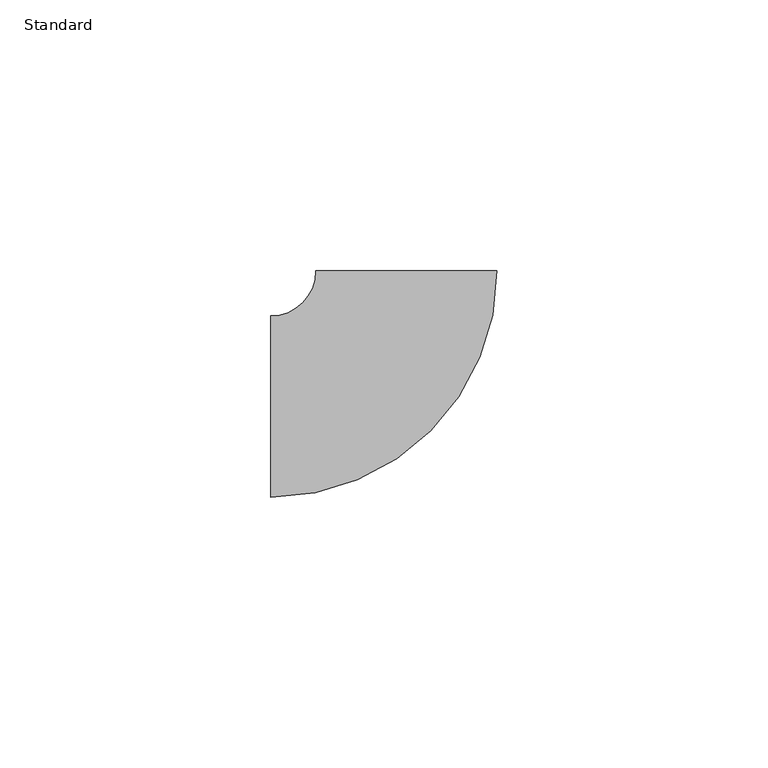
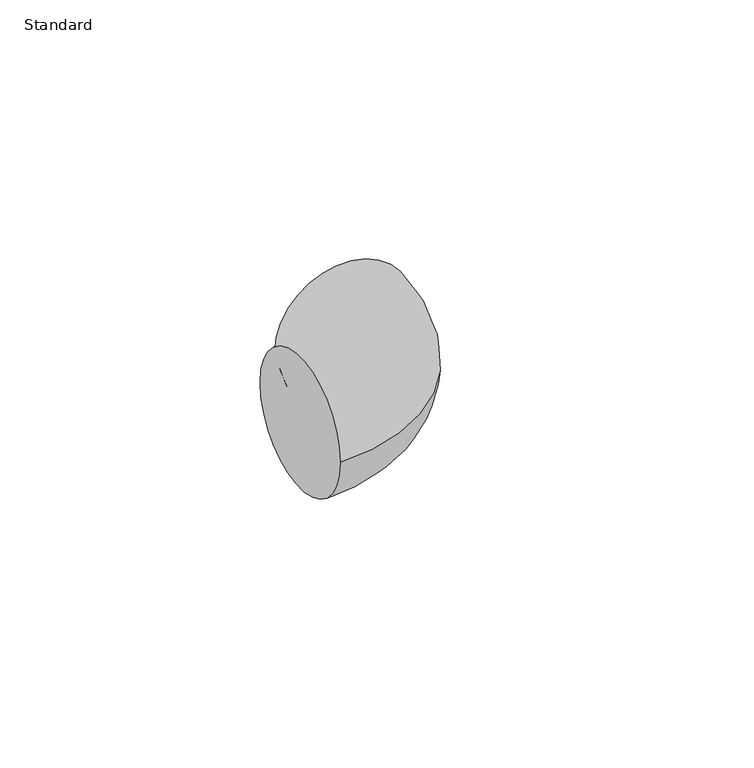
"""IFC4 building model written with IfcOpenShell, lengths in millimetres: pipe fitting geometry, Coude - Générique1 : Standard."""

from ifc_helpers import new_model, si_unit, point, frame, origin, place, context, project, spatial, circle_curve, ellipse_curve, trimmed, source, transform, mapped, element, save
from ifc_brep_helpers import plane_surface, revolved_surface, advanced_brep


def standard_6e5039bf(model_context):
    return source(origin(), model_context, "Body", "AdvancedBrep", [
        advanced_brep(
        [(-25.0, -16.7, 0.0), (-25.0, 16.7, 0.0), (16.7, 25.0, 0.0), (-16.7, 25.0, 0.0)],
        [
            (0, 1, circle_curve(frame((-25.0, 0.0, 0.0), z_axis=(-1.0, 0.0, 0.0), x_axis=(0.0, 1.0, 0.0)), 16.7)),
            (1, 0, circle_curve(frame((-25.0, 0.0, 0.0), z_axis=(-1.0, 0.0, 0.0), x_axis=(0.0, 1.0, 0.0)), 16.7)),
            (2, 3, circle_curve(frame((0.0, 25.0, 0.0), z_axis=(0.0, 1.0, 0.0), x_axis=(-1.0, 0.0, 0.0)), 16.7)),
            (3, 2, circle_curve(frame((0.0, 25.0, 0.0), z_axis=(0.0, 1.0, 0.0), x_axis=(-1.0, 0.0, 0.0)), 16.7)),
            (3, 1, circle_curve(frame((-25.0, 25.0, 0.0), z_axis=(0.0, 0.0, -1.0), x_axis=(0.0, -1.0, 0.0)), 8.3)),
            (0, 2, circle_curve(frame((-25.0, 25.0, 0.0), z_axis=(0.0, 0.0, 1.0), x_axis=(0.0, -1.0, 0.0)), 41.7)),
        ],
        [
            plane_surface(frame((-25.0, 0.0, 0.0), z_axis=(-1.0, 0.0, 0.0), x_axis=(0.0, 0.0, 1.0))),
            plane_surface(frame((0.0, 25.0, 0.0), z_axis=(0.0, 1.0, 0.0), x_axis=(0.0, 0.0, 1.0))),
            revolved_surface(trimmed(ellipse_curve(frame((-25.0, 0.0, 0.0), z_axis=(-1.0, 0.0, 0.0), x_axis=(0.0, 1.0, 0.0)), 16.7, 16.7), [point((-25.0, -16.7, 0.0))], [point((-25.0, 16.7, 0.0))], True, "CARTESIAN"), (-25.0, 25.0, 0.0), (0.0, 0.0, 1.0)),
            revolved_surface(trimmed(ellipse_curve(frame((-25.0, 0.0, 0.0), z_axis=(-1.0, 0.0, 0.0), x_axis=(0.0, 1.0, 0.0)), 16.7, 16.7), [point((-25.0, 16.7, 0.0))], [point((-25.0, -16.7, 0.0))], True, "CARTESIAN"), (-25.0, 25.0, 0.0), (0.0, 0.0, 1.0)),
        ],
        [
            (0, [[1, 2]]),
            (1, [[3, 4]]),
            (2, [[5, -1, 6, -4]]),
            (3, [[-6, -2, -5, -3]]),
        ],
    ),
    ])


if __name__ == "__main__":
    model = new_model("IFC4")
    model_context = context("Model", 3, world=origin())
    ifc_project = project(units=[si_unit("LENGTHUNIT", "METRE", prefix="MILLI")], contexts=[model_context])
    site = spatial("IfcSite", under=ifc_project)
    building = spatial("IfcBuilding", under=site)
    placement = place(None, origin())
    standard_shape = standard_6e5039bf(model_context)
    element("IfcPipeFitting", 1, ObjectType="Coude - Générique1 : Standard", at=placement, inside=building, context=model_context, shape_type="MappedRepresentation", body=[
        mapped(standard_shape, transform((0.0, 0.0, 0.0), x_axis=(1.0, 0.0, 0.0), y_axis=(0.0, 1.0, 0.0), z_axis=(0.0, 0.0, 1.0))),
    ])
    save(model, "model.ifc")
